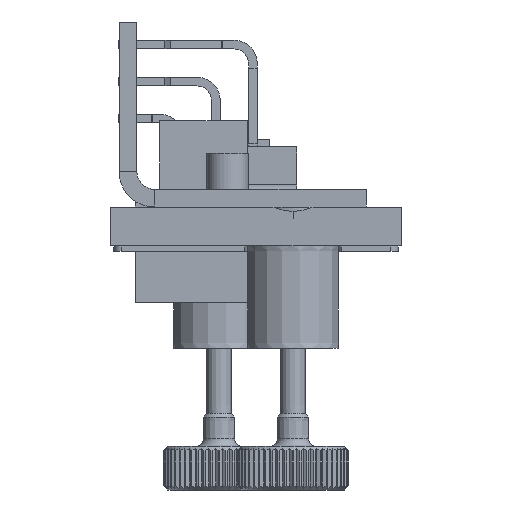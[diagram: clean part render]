
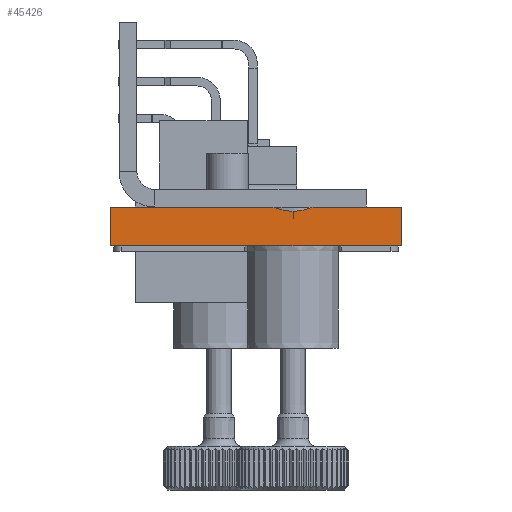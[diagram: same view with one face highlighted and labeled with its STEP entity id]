
A CAD part, front view. The second image highlights one B-rep face of the part: STEP entity #45426.
In plain terms, the highlighted planar face has unit normal (0, -1, 0).
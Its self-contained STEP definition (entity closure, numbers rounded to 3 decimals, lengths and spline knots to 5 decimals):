
#2212=DIRECTION('',(1.,0.,0.));
#2213=VECTOR('',#2212,0.4398);
#2214=CARTESIAN_POINT('',(-0.394,-2.532,0.105));
#2215=LINE('',#2214,#2213);
#2237=DIRECTION('',(1.,0.,0.));
#2238=VECTOR('',#2237,0.2398);
#2239=CARTESIAN_POINT('',(0.1542,-2.532,0.105));
#2240=LINE('',#2239,#2238);
#2359=DIRECTION('',(1.,0.,0.));
#2360=VECTOR('',#2359,0.02211);
#2361=CARTESIAN_POINT('',(0.08894,-2.532,0.));
#2362=LINE('',#2361,#2360);
#2363=DIRECTION('',(0.,0.,1.));
#2364=VECTOR('',#2363,0.105);
#2365=CARTESIAN_POINT('',(-0.394,-2.532,0.));
#2366=LINE('',#2365,#2364);
#2367=CARTESIAN_POINT('',(0.0458,-2.532,0.105));
#2368=CARTESIAN_POINT('',(0.0476,-2.532,
0.10427));
#2369=CARTESIAN_POINT('',(0.05121,-2.532,
0.10286));
#2370=CARTESIAN_POINT('',(0.05667,-2.532,
0.10093));
#2371=CARTESIAN_POINT('',(0.06214,-2.532,
0.0992));
#2372=CARTESIAN_POINT('',(0.0676,-2.532,
0.09769));
#2373=CARTESIAN_POINT('',(0.07307,-2.532,
0.0964));
#2374=CARTESIAN_POINT('',(0.07853,-2.532,
0.09534));
#2375=CARTESIAN_POINT('',(0.08396,-2.532,
0.09451));
#2376=CARTESIAN_POINT('',(0.08937,-2.532,
0.09392));
#2377=CARTESIAN_POINT('',(0.09473,-2.532,
0.09357));
#2378=CARTESIAN_POINT('',(0.09827,-2.532,
0.0935));
#2379=CARTESIAN_POINT('',(0.10003,-2.532,
0.0935));
#2381=CARTESIAN_POINT('',(0.10003,-2.532,
0.0935));
#2382=CARTESIAN_POINT('',(0.10179,-2.532,
0.0935));
#2383=CARTESIAN_POINT('',(0.10534,-2.532,
0.09358));
#2384=CARTESIAN_POINT('',(0.11072,-2.532,
0.09393));
#2385=CARTESIAN_POINT('',(0.11614,-2.532,
0.09452));
#2386=CARTESIAN_POINT('',(0.12158,-2.532,
0.09535));
#2387=CARTESIAN_POINT('',(0.12704,-2.532,
0.09642));
#2388=CARTESIAN_POINT('',(0.13251,-2.532,
0.09772));
#2389=CARTESIAN_POINT('',(0.13796,-2.532,
0.09923));
#2390=CARTESIAN_POINT('',(0.1434,-2.532,
0.10096));
#2391=CARTESIAN_POINT('',(0.14883,-2.532,
0.10287));
#2392=CARTESIAN_POINT('',(0.15241,-2.532,
0.10427));
#2393=CARTESIAN_POINT('',(0.1542,-2.532,0.105));
#2497=DIRECTION('',(1.,0.,0.));
#2498=VECTOR('',#2497,0.48294);
#2499=CARTESIAN_POINT('',(-0.394,-2.532,0.));
#2500=LINE('',#2499,#2498);
#2523=CARTESIAN_POINT('',(0.08894,-2.532,0.));
#2563=CARTESIAN_POINT('',(0.11106,-2.532,0.));
#2580=DIRECTION('',(1.,0.,0.));
#2581=VECTOR('',#2580,0.28294);
#2582=CARTESIAN_POINT('',(0.11106,-2.532,0.));
#2583=LINE('',#2582,#2581);
#2705=DIRECTION('',(0.,0.,1.));
#2706=VECTOR('',#2705,0.105);
#2707=CARTESIAN_POINT('',(0.394,-2.532,0.));
#2708=LINE('',#2707,#2706);
#33174=CARTESIAN_POINT('',(-0.394,-2.532,0.));
#33176=VERTEX_POINT('',#33174);
#33177=CARTESIAN_POINT('',(0.394,-2.532,0.));
#33179=VERTEX_POINT('',#33177);
#33182=CARTESIAN_POINT('',(-0.394,-2.532,0.105));
#33184=VERTEX_POINT('',#33182);
#33185=CARTESIAN_POINT('',(0.394,-2.532,0.105));
#33187=VERTEX_POINT('',#33185);
#33211=VERTEX_POINT('',#2381);
#33212=VERTEX_POINT('',#2393);
#33219=VERTEX_POINT('',#2367);
#33346=VERTEX_POINT('',#2523);
#33347=VERTEX_POINT('',#2563);
#45404=CARTESIAN_POINT('',(-0.394,-2.532,0.));
#45405=DIRECTION('',(0.,-1.,0.));
#45406=DIRECTION('',(1.,0.,0.));
#45407=AXIS2_PLACEMENT_3D('',#45404,#45405,#45406);
#45408=PLANE('',#45407);
#45410=ORIENTED_EDGE('',*,*,#45409,.F.);
#45412=ORIENTED_EDGE('',*,*,#45411,.F.);
#45414=ORIENTED_EDGE('',*,*,#45413,.T.);
#45415=ORIENTED_EDGE('',*,*,#45289,.T.);
#45417=ORIENTED_EDGE('',*,*,#45416,.T.);
#45418=ORIENTED_EDGE('',*,*,#45392,.T.);
#45419=ORIENTED_EDGE('',*,*,#45303,.T.);
#45421=ORIENTED_EDGE('',*,*,#45420,.F.);
#45423=ORIENTED_EDGE('',*,*,#45422,.F.);
#45424=EDGE_LOOP('',(#45410,#45412,#45414,#45415,#45417,#45418,#45419,#45421,
#45423));
#45425=FACE_OUTER_BOUND('',#45424,.F.);
#45426=ADVANCED_FACE('',(#45425),#45408,.T.);
#2380=B_SPLINE_CURVE_WITH_KNOTS('',3,(#2367,#2368,#2369,#2370,#2371,#2372,#2373,
#2374,#2375,#2376,#2377,#2378,#2379),.UNSPECIFIED.,.F.,.F.,(4,1,1,1,1,1,1,1,1,1,
4),(0.,0.1,0.2,0.3,0.4,0.5,0.6,0.7,0.8,0.9,1.),
.UNSPECIFIED.);
#2394=B_SPLINE_CURVE_WITH_KNOTS('',3,(#2381,#2382,#2383,#2384,#2385,#2386,#2387,
#2388,#2389,#2390,#2391,#2392,#2393),.UNSPECIFIED.,.F.,.F.,(4,1,1,1,1,1,1,1,1,1,
4),(0.,0.1,0.2,0.3,0.4,0.5,0.6,0.7,0.8,0.9,1.),
.UNSPECIFIED.);
#45289=EDGE_CURVE('',#33184,#33219,#2215,.T.);
#45303=EDGE_CURVE('',#33212,#33187,#2240,.T.);
#45392=EDGE_CURVE('',#33211,#33212,#2394,.T.);
#45409=EDGE_CURVE('',#33346,#33347,#2362,.T.);
#45411=EDGE_CURVE('',#33176,#33346,#2500,.T.);
#45413=EDGE_CURVE('',#33176,#33184,#2366,.T.);
#45416=EDGE_CURVE('',#33219,#33211,#2380,.T.);
#45420=EDGE_CURVE('',#33179,#33187,#2708,.T.);
#45422=EDGE_CURVE('',#33347,#33179,#2583,.T.);
